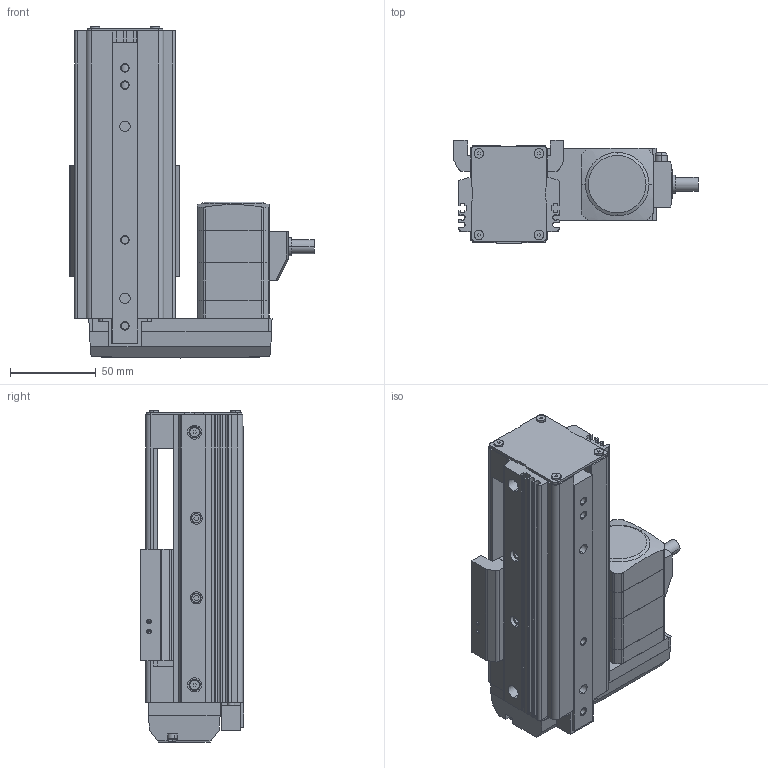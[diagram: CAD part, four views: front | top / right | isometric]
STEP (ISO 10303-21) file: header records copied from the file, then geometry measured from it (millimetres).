
FILE_DESCRIPTION (( 'STEP AP203' ), '1' );
FILE_NAME ('EASM4LXD005ARAK.step', '2013-10-10T04:36:12', ( 'om' ), ( 'Hewlett-Packard Company' ), 'SwSTEP 2.0', 'SolidWorks 2011', '' );
FILE_SCHEMA (( 'CONFIG_CONTROL_DESIGN' ));
Length unit declared in the file: millimetre
Products named in the file (4): EASM4LXD005ARAK; EASM4LXD005ARAK_Table; EASM4LXD005ARAK_BASE; EASM4LXD005ARAK_Motor
Assembly tree (3 placements, depth 2):
  EASM4LXD005ARAK
    EASM4LXD005ARAK_Table
    EASM4LXD005ARAK_BASE
    EASM4LXD005ARAK_Motor
Bounding box: 142 x 60 x 193.1 mm (x, y, z)
Volume: 567392.7 mm3; surface area: 144926 mm2
Topology: 3 solids, 13 shells, 960 faces, 2492 edges, 1611 vertices
Faces by surface type: plane 543, cylinder 337, cone 60, torus 16, bspline 4
Entity records: 29850 total; most frequent: CARTESIAN_POINT 5325, DIRECTION 5115, ORIENTED_EDGE 4936, EDGE_CURVE 2468, AXIS2_PLACEMENT_3D 1717, VECTOR 1681, LINE 1681, VERTEX_POINT 1611
